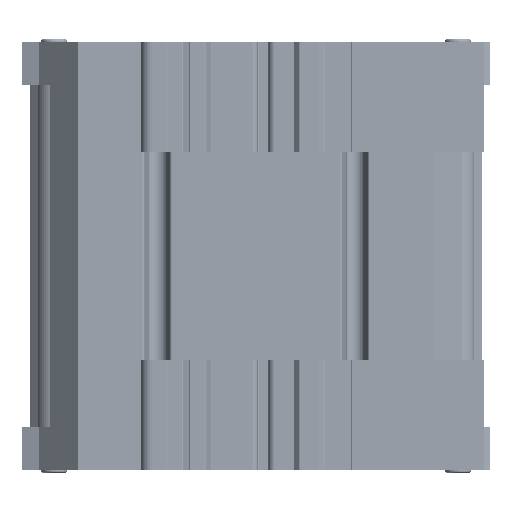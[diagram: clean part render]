
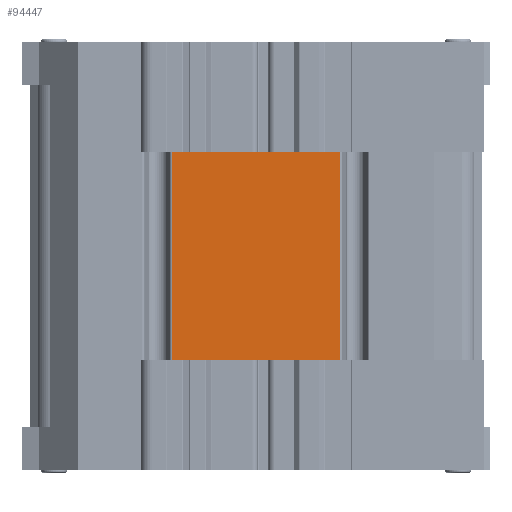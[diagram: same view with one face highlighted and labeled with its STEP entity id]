
A CAD part, left-side view. The second image highlights one B-rep face of the part: STEP entity #94447.
In plain terms, the highlighted planar face has unit normal (-1, 0, 0).
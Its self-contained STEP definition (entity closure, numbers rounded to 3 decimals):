
#15005=DIRECTION('',(0.,0.,-1.));
#15006=VECTOR('',#15005,37.4);
#15007=CARTESIAN_POINT('',(0.201,13.901,
102.816));
#15008=LINE('',#15007,#15006);
#15025=DIRECTION('',(0.,-1.,0.));
#15026=VECTOR('',#15025,30.1);
#15027=CARTESIAN_POINT('',(0.201,44.001,
65.416));
#15028=LINE('',#15027,#15026);
#15029=DIRECTION('',(0.,1.,0.));
#15030=VECTOR('',#15029,30.1);
#15031=CARTESIAN_POINT('',(0.201,13.901,
102.816));
#15032=LINE('',#15031,#15030);
#15041=DIRECTION('',(0.,0.,1.));
#15042=VECTOR('',#15041,37.4);
#15043=CARTESIAN_POINT('',(0.201,44.001,
65.416));
#15044=LINE('',#15043,#15042);
#68457=CARTESIAN_POINT('',(0.201,44.001,
65.416));
#68458=CARTESIAN_POINT('',(0.201,44.001,
102.816));
#68459=VERTEX_POINT('',#68457);
#68460=VERTEX_POINT('',#68458);
#69292=CARTESIAN_POINT('',(0.201,13.901,
65.416));
#69293=VERTEX_POINT('',#69292);
#76035=CARTESIAN_POINT('',(0.201,13.901,
102.816));
#76036=VERTEX_POINT('',#76035);
#94435=CARTESIAN_POINT('',(0.201,44.001,
120.916));
#94436=DIRECTION('',(1.,0.,0.));
#94437=DIRECTION('',(0.,0.,-1.));
#94438=AXIS2_PLACEMENT_3D('',#94435,#94436,#94437);
#94439=PLANE('',#94438);
#94440=ORIENTED_EDGE('',*,*,#91324,.F.);
#94442=ORIENTED_EDGE('',*,*,#94441,.T.);
#94443=ORIENTED_EDGE('',*,*,#93469,.F.);
#94444=ORIENTED_EDGE('',*,*,#94410,.T.);
#94445=EDGE_LOOP('',(#94440,#94442,#94443,#94444));
#94446=FACE_OUTER_BOUND('',#94445,.F.);
#94447=ADVANCED_FACE('',(#94446),#94439,.F.);
#91324=EDGE_CURVE('',#68459,#69293,#15028,.T.);
#93469=EDGE_CURVE('',#76036,#68460,#15032,.T.);
#94410=EDGE_CURVE('',#76036,#69293,#15008,.T.);
#94441=EDGE_CURVE('',#68459,#68460,#15044,.T.);
